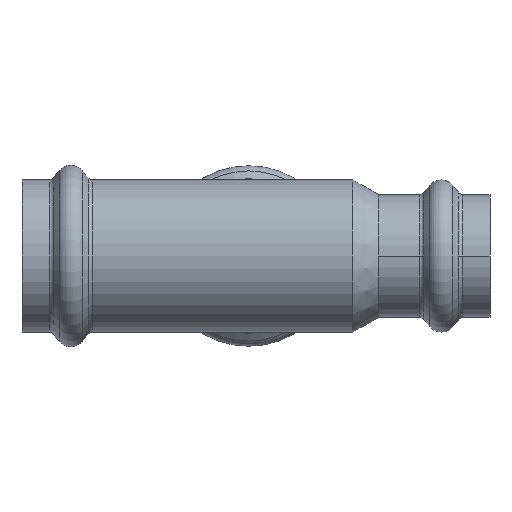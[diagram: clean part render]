
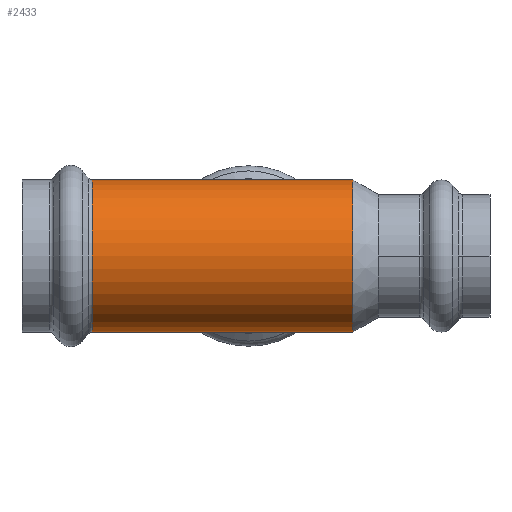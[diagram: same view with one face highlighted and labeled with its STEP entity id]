
A CAD part, front view. The second image highlights one B-rep face of the part: STEP entity #2433.
In plain terms, the highlighted cylindrical face has radius 15.6 mm (diameter 31.2 mm), a partial arc.
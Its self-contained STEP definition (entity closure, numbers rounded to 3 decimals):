
#147 = CARTESIAN_POINT ( 'NONE',  ( -58.611, 0., 15.6 ) ) ;
#406 = CARTESIAN_POINT ( 'NONE',  ( -58.611, 0., 0. ) ) ;
#497 = CIRCLE ( 'NONE', #3521, 15.6 ) ;
#526 = DIRECTION ( 'NONE',  ( -1., 0., 0. ) ) ;
#812 = ORIENTED_EDGE ( 'NONE', *, *, #1922, .T. ) ;
#1074 = CARTESIAN_POINT ( 'NONE',  ( 21.376, 0., 15.6 ) ) ;
#1134 = AXIS2_PLACEMENT_3D ( 'NONE', #3533, #1239, #3923 ) ;
#1181 = DIRECTION ( 'NONE',  ( -1., 0., 0. ) ) ;
#1239 = DIRECTION ( 'NONE',  ( 1., 0., 0. ) ) ;
#1268 = LINE ( 'NONE', #147, #3184 ) ;
#1314 = VERTEX_POINT ( 'NONE', #3254 ) ;
#1376 = EDGE_CURVE ( 'NONE', #1593, #1744, #1268, .T. ) ;
#1400 = CYLINDRICAL_SURFACE ( 'NONE', #1872, 15.6 ) ;
#1556 = CARTESIAN_POINT ( 'NONE',  ( -32.106, 0., 15.6 ) ) ;
#1593 = VERTEX_POINT ( 'NONE', #1074 ) ;
#1637 = ORIENTED_EDGE ( 'NONE', *, *, #3589, .F. ) ;
#1728 = CARTESIAN_POINT ( 'NONE',  ( 21.376, 0., 0. ) ) ;
#1744 = VERTEX_POINT ( 'NONE', #1556 ) ;
#1872 = AXIS2_PLACEMENT_3D ( 'NONE', #406, #1181, #4611 ) ;
#1922 = EDGE_CURVE ( 'NONE', #1744, #4770, #4914, .T. ) ;
#2111 = DIRECTION ( 'NONE',  ( 0., 0., 1. ) ) ;
#2147 = CARTESIAN_POINT ( 'NONE',  ( -58.611, 0., -15.6 ) ) ;
#2184 = VECTOR ( 'NONE', #4068, 1000. ) ;
#2433 = ADVANCED_FACE ( 'NONE', ( #2555 ), #1400, .T. ) ;
#2555 = FACE_OUTER_BOUND ( 'NONE', #2728, .T. ) ;
#2611 = ORIENTED_EDGE ( 'NONE', *, *, #3729, .F. ) ;
#2728 = EDGE_LOOP ( 'NONE', ( #2611, #1637, #3948, #812 ) ) ;
#3184 = VECTOR ( 'NONE', #526, 1000. ) ;
#3198 = LINE ( 'NONE', #2147, #2184 ) ;
#3254 = CARTESIAN_POINT ( 'NONE',  ( 21.376, 0., -15.6 ) ) ;
#3521 = AXIS2_PLACEMENT_3D ( 'NONE', #1728, #4406, #2111 ) ;
#3533 = CARTESIAN_POINT ( 'NONE',  ( -32.106, 0., 0. ) ) ;
#3589 = EDGE_CURVE ( 'NONE', #1593, #1314, #497, .T. ) ;
#3729 = EDGE_CURVE ( 'NONE', #1314, #4770, #3198, .T. ) ;
#3923 = DIRECTION ( 'NONE',  ( 0., 0., 1. ) ) ;
#3948 = ORIENTED_EDGE ( 'NONE', *, *, #1376, .T. ) ;
#4012 = CARTESIAN_POINT ( 'NONE',  ( -32.106, 0., -15.6 ) ) ;
#4068 = DIRECTION ( 'NONE',  ( -1., 0., 0. ) ) ;
#4406 = DIRECTION ( 'NONE',  ( 1., 0., 0. ) ) ;
#4611 = DIRECTION ( 'NONE',  ( 0., 0., 1. ) ) ;
#4770 = VERTEX_POINT ( 'NONE', #4012 ) ;
#4914 = CIRCLE ( 'NONE', #1134, 15.6 ) ;
